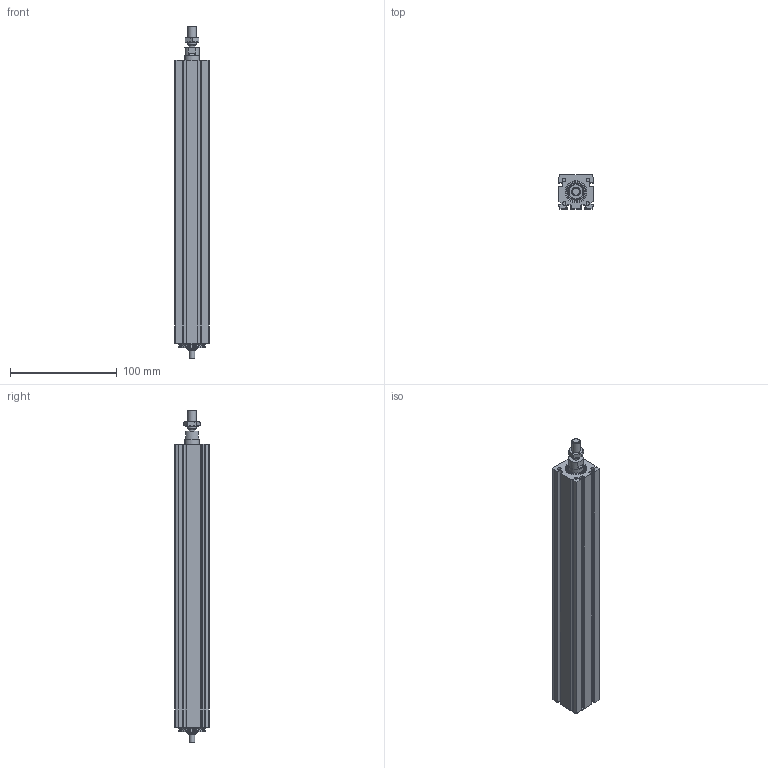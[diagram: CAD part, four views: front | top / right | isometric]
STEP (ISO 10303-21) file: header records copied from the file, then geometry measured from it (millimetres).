
FILE_DESCRIPTION(/* description */ ('STEP AP214'),/* implementation_level */ '2;1');
FILE_NAME(/* name */ 'MCE 32 0802 200 0(0)',/* time_stamp */ '2023-10-05T14:15:31+02:00',/* author */ ('License CC BY-ND 4.0'),/* organization */ ('CADENAS'),/* preprocessor_version */ 'ST-DEVELOPER v19.3',/* originating_system */ 'PARTsolutions',/* authorisation */ ' ');
FILE_SCHEMA (('AUTOMOTIVE_DESIGN {1 0 10303 214 3 1 1}'));
Length unit declared in the file: millimetre
Products named in the file (4): MCE 32 0802 200  0(0); 32_nut; 32(2000)_rod; 32(200)_msc
Assembly tree (3 placements, depth 2):
  MCE 32 0802 200  0(0)
    32_nut
    32(2000)_rod
    32(200)_msc
Bounding box: 32 x 32 x 311 mm (x, y, z)
Volume: 193061.6 mm3; surface area: 82246.7 mm2
Topology: 3 solids, 3 shells, 205 faces, 503 edges, 326 vertices
Faces by surface type: cylinder 89, plane 88, cone 23, torus 5
Full cylindrical faces by diameter (mm): 2.459 x4, 3.242 x4, 5 x1, 6.5 x1, 6.647 x1, 8 x2, 10 x1, 13.8 x1, 14 x2, 17.46 x1, 19.5 x1, 24.5 x2, 25 x2
Entity records: 6017 total; most frequent: CARTESIAN_POINT 1087, DIRECTION 1064, ORIENTED_EDGE 924, EDGE_CURVE 462, AXIS2_PLACEMENT_3D 419, VERTEX_POINT 324, EDGE_LOOP 268, FACE_BOUND 268
